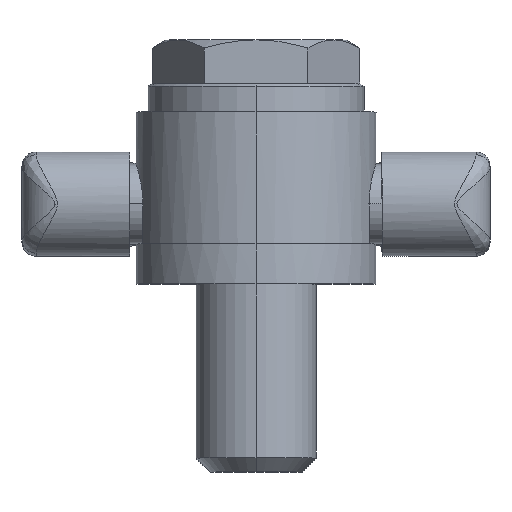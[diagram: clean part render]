
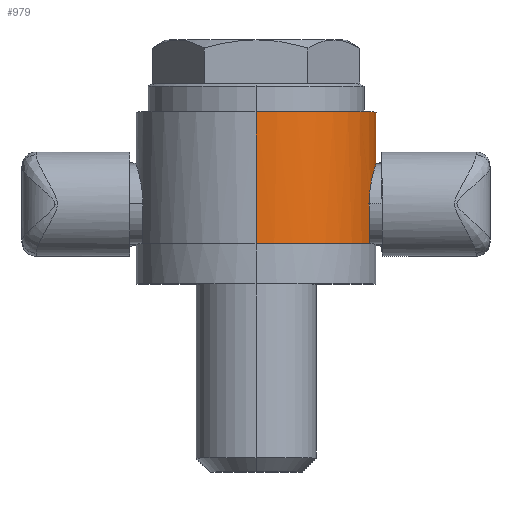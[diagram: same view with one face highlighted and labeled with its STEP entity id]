
A CAD part, top view. The second image highlights one B-rep face of the part: STEP entity #979.
In plain terms, the highlighted cylindrical face has radius 30 mm (diameter 60 mm), a partial arc.
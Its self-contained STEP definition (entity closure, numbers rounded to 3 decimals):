
#946 = VERTEX_POINT ( 'NONE', #1383 ) ;
#947 = VERTEX_POINT ( 'NONE', #1382 ) ;
#957 = EDGE_CURVE ( 'NONE', #958, #946, #1431, .T. ) ;
#958 = VERTEX_POINT ( 'NONE', #1426 ) ;
#964 = VERTEX_POINT ( 'NONE', #1423 ) ;
#967 = ORIENTED_EDGE ( 'NONE', *, *, #980, .T. ) ;
#974 = VERTEX_POINT ( 'NONE', #1417 ) ;
#976 = VERTEX_POINT ( 'NONE', #1416 ) ;
#977 = ORIENTED_EDGE ( 'NONE', *, *, #957, .F. ) ;
#978 = EDGE_LOOP ( 'NONE', ( #977, #1006, #999, #993, #991, #967, #6096, #6085 ) ) ;
#979 = ADVANCED_FACE ( 'NONE', ( #1415 ), #1477, .T. ) ;
#980 = EDGE_CURVE ( 'NONE', #964, #976, #1472, .T. ) ;
#990 = VERTEX_POINT ( 'NONE', #1464 ) ;
#991 = ORIENTED_EDGE ( 'NONE', *, *, #992, .T. ) ;
#992 = EDGE_CURVE ( 'NONE', #990, #964, #1463, .T. ) ;
#993 = ORIENTED_EDGE ( 'NONE', *, *, #994, .T. ) ;
#994 = EDGE_CURVE ( 'NONE', #974, #990, #1490, .T. ) ;
#998 = EDGE_CURVE ( 'NONE', #974, #947, #1486, .T. ) ;
#999 = ORIENTED_EDGE ( 'NONE', *, *, #998, .F. ) ;
#1000 = EDGE_CURVE ( 'NONE', #958, #947, #1481, .T. ) ;
#1006 = ORIENTED_EDGE ( 'NONE', *, *, #1000, .T. ) ;
#1382 = CARTESIAN_POINT ( 'NONE',  ( 0., 10., 30. ) ) ;
#1383 = CARTESIAN_POINT ( 'NONE',  ( 0., 43., -30. ) ) ;
#1415 = FACE_OUTER_BOUND ( 'NONE', #978, .T. ) ;
#1416 = CARTESIAN_POINT ( 'NONE',  ( 28.284, 10., -10. ) ) ;
#1417 = CARTESIAN_POINT ( 'NONE',  ( 28.284, 10., 10. ) ) ;
#1423 = CARTESIAN_POINT ( 'NONE',  ( 28.284, 20., -10. ) ) ;
#1426 = CARTESIAN_POINT ( 'NONE',  ( 0., 43., 30. ) ) ;
#1427 = DIRECTION ( 'NONE',  ( 0., 0., 1. ) ) ;
#1428 = DIRECTION ( 'NONE',  ( 0., 1., 0. ) ) ;
#1429 = CARTESIAN_POINT ( 'NONE',  ( 0., 43., 0. ) ) ;
#1430 = AXIS2_PLACEMENT_3D ( 'NONE', #1429, #1428, #1427 ) ;
#1431 = CIRCLE ( 'NONE', #1430, 30. ) ;
#1446 = CARTESIAN_POINT ( 'NONE',  ( 29.674, 28.979, 4.449 ) ) ;
#1447 = CARTESIAN_POINT ( 'NONE',  ( 29.582, 28.672, 5.023 ) ) ;
#1448 = CARTESIAN_POINT ( 'NONE',  ( 29.376, 27.94, 6.114 ) ) ;
#1449 = CARTESIAN_POINT ( 'NONE',  ( 29.266, 27.528, 6.614 ) ) ;
#1450 = CARTESIAN_POINT ( 'NONE',  ( 29.099, 26.841, 7.301 ) ) ;
#1451 = CARTESIAN_POINT ( 'NONE',  ( 29.043, 26.601, 7.519 ) ) ;
#1452 = CARTESIAN_POINT ( 'NONE',  ( 28.933, 26.097, 7.933 ) ) ;
#1453 = CARTESIAN_POINT ( 'NONE',  ( 28.878, 25.833, 8.129 ) ) ;
#1454 = CARTESIAN_POINT ( 'NONE',  ( 28.722, 25.021, 8.673 ) ) ;
#1455 = CARTESIAN_POINT ( 'NONE',  ( 28.626, 24.449, 8.98 ) ) ;
#1456 = CARTESIAN_POINT ( 'NONE',  ( 28.504, 23.543, 9.357 ) ) ;
#1457 = CARTESIAN_POINT ( 'NONE',  ( 28.466, 23.231, 9.469 ) ) ;
#1458 = CARTESIAN_POINT ( 'NONE',  ( 28.402, 22.6, 9.662 ) ) ;
#1459 = CARTESIAN_POINT ( 'NONE',  ( 28.374, 22.282, 9.742 ) ) ;
#1460 = CARTESIAN_POINT ( 'NONE',  ( 28.308, 21.319, 9.934 ) ) ;
#1461 = CARTESIAN_POINT ( 'NONE',  ( 28.284, 20.666, 10. ) ) ;
#1462 = CARTESIAN_POINT ( 'NONE',  ( 28.284, 20., 10. ) ) ;
#1463 = B_SPLINE_CURVE_WITH_KNOTS ( 'NONE', 3,
 ( #1462, #1461, #1460, #1459, #1458, #1457, #1456, #1455, #1454, #1453, #1452, #1451, #1450, #1449, #1448, #1447, #1446, #1519, #1518, #1517, #1516, #1515, #1514, #1513, #1512, #1511, #1510, #1509, #1508, #1507, #1506, #1505, #1504, #1503, #1502, #1501, #1500, #1499, #1498, #1497, #1496, #1495, #1494, #1493, #1492, #1491 ),
 .UNSPECIFIED., .F., .F.,
 ( 4, 2, 2, 2, 2, 2, 2, 2, 2, 2, 2, 2, 2, 2, 2, 2, 2, 2, 2, 2, 2, 2, 4 ),
 ( 0., 0.002, 0.003, 0.004, 0.006, 0.007, 0.008, 0.01, 0.012, 0.013, 0.014, 0.016, 0.018, 0.02, 0.021, 0.022, 0.023, 0.024, 0.026, 0.028, 0.03, 0.03, 0.031 ),
 .UNSPECIFIED. ) ;
#1464 = CARTESIAN_POINT ( 'NONE',  ( 28.284, 20., 10. ) ) ;
#1469 = DIRECTION ( 'NONE',  ( 0., -1., 0. ) ) ;
#1470 = VECTOR ( 'NONE', #1469, 1000. ) ;
#1471 = CARTESIAN_POINT ( 'NONE',  ( 28.284, 50., -10. ) ) ;
#1472 = LINE ( 'NONE', #1471, #1470 ) ;
#1473 = DIRECTION ( 'NONE',  ( 0., 0., -1. ) ) ;
#1474 = DIRECTION ( 'NONE',  ( 0., -1., 0. ) ) ;
#1475 = CARTESIAN_POINT ( 'NONE',  ( 0., 50., 0. ) ) ;
#1476 = AXIS2_PLACEMENT_3D ( 'NONE', #1475, #1474, #1473 ) ;
#1477 = CYLINDRICAL_SURFACE ( 'NONE', #1476, 30. ) ;
#1478 = DIRECTION ( 'NONE',  ( 0., -1., 0. ) ) ;
#1479 = VECTOR ( 'NONE', #1478, 1000. ) ;
#1480 = CARTESIAN_POINT ( 'NONE',  ( 0., 50., 30. ) ) ;
#1481 = LINE ( 'NONE', #1480, #1479 ) ;
#1482 = DIRECTION ( 'NONE',  ( 0., 0., -1. ) ) ;
#1483 = DIRECTION ( 'NONE',  ( 0., -1., 0. ) ) ;
#1484 = CARTESIAN_POINT ( 'NONE',  ( 0., 10., 0. ) ) ;
#1485 = AXIS2_PLACEMENT_3D ( 'NONE', #1484, #1483, #1482 ) ;
#1486 = CIRCLE ( 'NONE', #1485, 30. ) ;
#1487 = DIRECTION ( 'NONE',  ( 0., 1., 0. ) ) ;
#1488 = VECTOR ( 'NONE', #1487, 1000. ) ;
#1489 = CARTESIAN_POINT ( 'NONE',  ( 28.284, 50., 10. ) ) ;
#1490 = LINE ( 'NONE', #1489, #1488 ) ;
#1491 = CARTESIAN_POINT ( 'NONE',  ( 28.284, 20., -10. ) ) ;
#1492 = CARTESIAN_POINT ( 'NONE',  ( 28.284, 20.333, -10. ) ) ;
#1493 = CARTESIAN_POINT ( 'NONE',  ( 28.29, 20.664, -9.983 ) ) ;
#1494 = CARTESIAN_POINT ( 'NONE',  ( 28.313, 21.324, -9.917 ) ) ;
#1495 = CARTESIAN_POINT ( 'NONE',  ( 28.331, 21.654, -9.868 ) ) ;
#1496 = CARTESIAN_POINT ( 'NONE',  ( 28.398, 22.624, -9.672 ) ) ;
#1497 = CARTESIAN_POINT ( 'NONE',  ( 28.464, 23.247, -9.48 ) ) ;
#1498 = CARTESIAN_POINT ( 'NONE',  ( 28.626, 24.45, -8.979 ) ) ;
#1499 = CARTESIAN_POINT ( 'NONE',  ( 28.724, 25.034, -8.665 ) ) ;
#1500 = CARTESIAN_POINT ( 'NONE',  ( 28.933, 26.113, -7.94 ) ) ;
#1501 = CARTESIAN_POINT ( 'NONE',  ( 29.044, 26.613, -7.53 ) ) ;
#1502 = CARTESIAN_POINT ( 'NONE',  ( 29.211, 27.303, -6.839 ) ) ;
#1503 = CARTESIAN_POINT ( 'NONE',  ( 29.267, 27.524, -6.595 ) ) ;
#1504 = CARTESIAN_POINT ( 'NONE',  ( 29.376, 27.937, -6.091 ) ) ;
#1505 = CARTESIAN_POINT ( 'NONE',  ( 29.429, 28.131, -5.83 ) ) ;
#1506 = CARTESIAN_POINT ( 'NONE',  ( 29.531, 28.492, -5.291 ) ) ;
#1507 = CARTESIAN_POINT ( 'NONE',  ( 29.58, 28.659, -5.013 ) ) ;
#1508 = CARTESIAN_POINT ( 'NONE',  ( 29.671, 28.967, -4.438 ) ) ;
#1509 = CARTESIAN_POINT ( 'NONE',  ( 29.715, 29.109, -4.14 ) ) ;
#1510 = CARTESIAN_POINT ( 'NONE',  ( 29.832, 29.488, -3.227 ) ) ;
#1511 = CARTESIAN_POINT ( 'NONE',  ( 29.894, 29.678, -2.601 ) ) ;
#1512 = CARTESIAN_POINT ( 'NONE',  ( 29.978, 29.935, -1.315 ) ) ;
#1513 = CARTESIAN_POINT ( 'NONE',  ( 30., 30.001, -0.647 ) ) ;
#1514 = CARTESIAN_POINT ( 'NONE',  ( 30., 29.999, 0.668 ) ) ;
#1515 = CARTESIAN_POINT ( 'NONE',  ( 29.978, 29.934, 1.32 ) ) ;
#1516 = CARTESIAN_POINT ( 'NONE',  ( 29.914, 29.74, 2.29 ) ) ;
#1517 = CARTESIAN_POINT ( 'NONE',  ( 29.888, 29.658, 2.613 ) ) ;
#1518 = CARTESIAN_POINT ( 'NONE',  ( 29.826, 29.466, 3.241 ) ) ;
#1519 = CARTESIAN_POINT ( 'NONE',  ( 29.791, 29.355, 3.548 ) ) ;
#2012 = CARTESIAN_POINT ( 'NONE',  ( 0., 10., -30. ) ) ;
#2034 = DIRECTION ( 'NONE',  ( 0., 0., -1. ) ) ;
#2035 = DIRECTION ( 'NONE',  ( 0., -1., 0. ) ) ;
#2036 = CARTESIAN_POINT ( 'NONE',  ( 0., 10., 0. ) ) ;
#2037 = AXIS2_PLACEMENT_3D ( 'NONE', #2036, #2035, #2034 ) ;
#2038 = CIRCLE ( 'NONE', #2037, 30. ) ;
#2039 = DIRECTION ( 'NONE',  ( 0., -1., 0. ) ) ;
#2040 = VECTOR ( 'NONE', #2039, 1000. ) ;
#2041 = CARTESIAN_POINT ( 'NONE',  ( 0., 50., -30. ) ) ;
#2042 = LINE ( 'NONE', #2041, #2040 ) ;
#6028 = VERTEX_POINT ( 'NONE', #2012 ) ;
#6084 = EDGE_CURVE ( 'NONE', #946, #6028, #2042, .T. ) ;
#6085 = ORIENTED_EDGE ( 'NONE', *, *, #6084, .F. ) ;
#6094 = EDGE_CURVE ( 'NONE', #6028, #976, #2038, .T. ) ;
#6096 = ORIENTED_EDGE ( 'NONE', *, *, #6094, .F. ) ;
